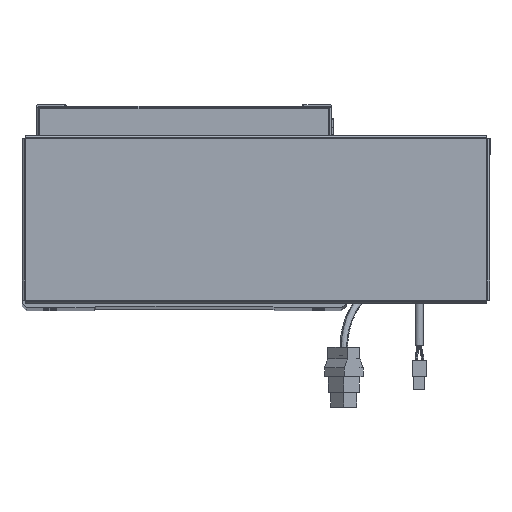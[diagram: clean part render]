
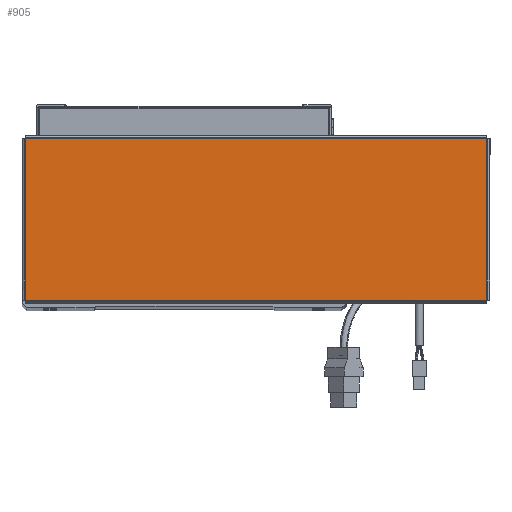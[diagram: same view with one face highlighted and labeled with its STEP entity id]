
A CAD part, top view. The second image highlights one B-rep face of the part: STEP entity #905.
In plain terms, the highlighted planar face has unit normal (0, 0, 1).
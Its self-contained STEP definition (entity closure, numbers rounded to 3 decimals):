
#905 = ADVANCED_FACE ( 'NONE', ( #8396 ), #53395, .T. ) ;
#1742 = CARTESIAN_POINT ( 'NONE',  ( 156.543, 54.763, 0. ) ) ;
#2456 = CARTESIAN_POINT ( 'NONE',  ( 156.513, -54.793, 0. ) ) ;
#3516 = EDGE_CURVE ( 'NONE', #41846, #13420, #44138, .T. ) ;
#5103 = CARTESIAN_POINT ( 'NONE',  ( 156.513, 54.763, 0. ) ) ;
#7845 = DIRECTION ( 'NONE',  ( 0., 1., 0. ) ) ;
#8396 = FACE_OUTER_BOUND ( 'NONE', #30748, .T. ) ;
#11738 = EDGE_CURVE ( 'NONE', #35947, #50299, #26392, .T. ) ;
#12383 = EDGE_CURVE ( 'NONE', #50299, #41846, #31939, .T. ) ;
#13420 = VERTEX_POINT ( 'NONE', #5103 ) ;
#15876 = DIRECTION ( 'NONE',  ( -1., 0., 0. ) ) ;
#19130 = DIRECTION ( 'NONE',  ( 1., 0., 0. ) ) ;
#19240 = VECTOR ( 'NONE', #7845, 1000. ) ;
#19493 = ORIENTED_EDGE ( 'NONE', *, *, #11738, .T. ) ;
#20668 = VECTOR ( 'NONE', #19130, 1000. ) ;
#21030 = CARTESIAN_POINT ( 'NONE',  ( -156.513, 54.763, 0. ) ) ;
#21364 = ORIENTED_EDGE ( 'NONE', *, *, #12383, .T. ) ;
#23018 = EDGE_CURVE ( 'NONE', #13420, #35947, #47466, .T. ) ;
#26257 = CARTESIAN_POINT ( 'NONE',  ( 156.513, -54.763, 0. ) ) ;
#26392 = LINE ( 'NONE', #44532, #52869 ) ;
#27502 = ORIENTED_EDGE ( 'NONE', *, *, #23018, .T. ) ;
#28119 = CARTESIAN_POINT ( 'NONE',  ( -156.513, -54.763, 0. ) ) ;
#30748 = EDGE_LOOP ( 'NONE', ( #21364, #47712, #27502, #19493 ) ) ;
#31939 = LINE ( 'NONE', #49831, #20668 ) ;
#35947 = VERTEX_POINT ( 'NONE', #21030 ) ;
#38143 = DIRECTION ( 'NONE',  ( 0., 0., 1. ) ) ;
#39444 = VECTOR ( 'NONE', #15876, 1000. ) ;
#41846 = VERTEX_POINT ( 'NONE', #26257 ) ;
#44138 = LINE ( 'NONE', #2456, #19240 ) ;
#44532 = CARTESIAN_POINT ( 'NONE',  ( -156.513, 54.793, 0. ) ) ;
#45874 = AXIS2_PLACEMENT_3D ( 'NONE', #52940, #38143, #63461 ) ;
#47466 = LINE ( 'NONE', #1742, #39444 ) ;
#47712 = ORIENTED_EDGE ( 'NONE', *, *, #3516, .T. ) ;
#49047 = DIRECTION ( 'NONE',  ( 0., -1., 0. ) ) ;
#49831 = CARTESIAN_POINT ( 'NONE',  ( -156.543, -54.763, 0. ) ) ;
#50299 = VERTEX_POINT ( 'NONE', #28119 ) ;
#52869 = VECTOR ( 'NONE', #49047, 1000. ) ;
#52940 = CARTESIAN_POINT ( 'NONE',  ( 0., 0., 0. ) ) ;
#53395 = PLANE ( 'NONE',  #45874 ) ;
#63461 = DIRECTION ( 'NONE',  ( 1., 0., 0. ) ) ;
